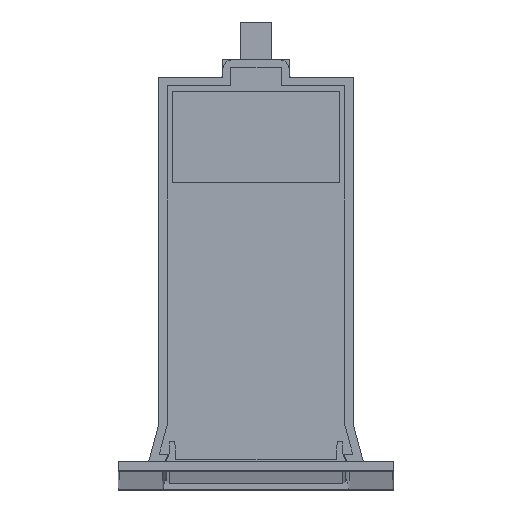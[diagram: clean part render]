
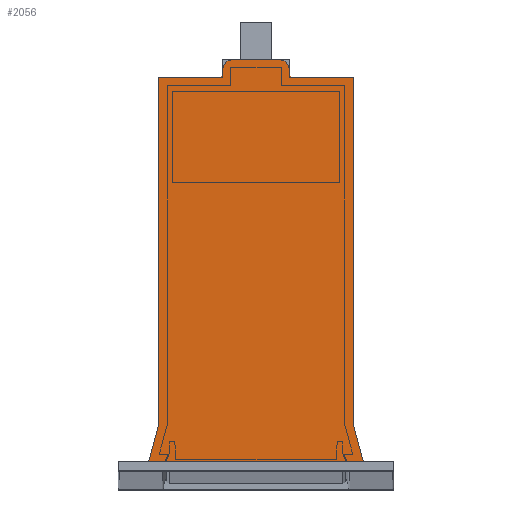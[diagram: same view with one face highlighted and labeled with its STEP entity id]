
A CAD part, top view. The second image highlights one B-rep face of the part: STEP entity #2056.
In plain terms, the highlighted planar face has unit normal (0, 0, 1).
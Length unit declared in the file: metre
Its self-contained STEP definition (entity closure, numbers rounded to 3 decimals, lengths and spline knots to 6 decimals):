
#77=CIRCLE('',#2223,0.0002);
#78=CIRCLE('',#2224,0.001);
#79=CIRCLE('',#2225,0.0023);
#80=CIRCLE('',#2226,0.0023);
#81=CIRCLE('',#2227,0.001);
#82=CIRCLE('',#2228,0.0002);
#134=FACE_OUTER_BOUND('',#248,.T.);
#248=EDGE_LOOP('',(#1527,#1528,#1529,#1530,#1531,#1532,#1533,#1534,#1535,
#1536,#1537,#1538,#1539,#1540,#1541,#1542));
#407=LINE('',#3122,#659);
#408=LINE('',#3126,#660);
#409=LINE('',#3128,#661);
#410=LINE('',#3130,#662);
#411=LINE('',#3134,#663);
#412=LINE('',#3138,#664);
#413=LINE('',#3142,#665);
#414=LINE('',#3146,#666);
#415=LINE('',#3148,#667);
#416=LINE('',#3150,#668);
#659=VECTOR('',#2529,0.046517);
#660=VECTOR('',#2532,0.008313);
#661=VECTOR('',#2533,0.075919);
#662=VECTOR('',#2534,0.013);
#663=VECTOR('',#2537,0.0007);
#664=VECTOR('',#2540,0.01);
#665=VECTOR('',#2543,0.0007);
#666=VECTOR('',#2546,0.013);
#667=VECTOR('',#2547,0.075919);
#668=VECTOR('',#2548,0.008313);
#907=VERTEX_POINT('',#3120);
#908=VERTEX_POINT('',#3121);
#909=VERTEX_POINT('',#3123);
#910=VERTEX_POINT('',#3125);
#911=VERTEX_POINT('',#3127);
#912=VERTEX_POINT('',#3129);
#913=VERTEX_POINT('',#3131);
#914=VERTEX_POINT('',#3133);
#915=VERTEX_POINT('',#3135);
#916=VERTEX_POINT('',#3137);
#917=VERTEX_POINT('',#3139);
#918=VERTEX_POINT('',#3141);
#919=VERTEX_POINT('',#3143);
#920=VERTEX_POINT('',#3145);
#921=VERTEX_POINT('',#3147);
#922=VERTEX_POINT('',#3149);
#1137=EDGE_CURVE('',#907,#908,#407,.T.);
#1138=EDGE_CURVE('',#908,#909,#77,.T.);
#1139=EDGE_CURVE('',#909,#910,#408,.T.);
#1140=EDGE_CURVE('',#910,#911,#409,.T.);
#1141=EDGE_CURVE('',#911,#912,#410,.F.);
#1142=EDGE_CURVE('',#912,#913,#78,.F.);
#1143=EDGE_CURVE('',#913,#914,#411,.T.);
#1144=EDGE_CURVE('',#914,#915,#79,.T.);
#1145=EDGE_CURVE('',#915,#916,#412,.F.);
#1146=EDGE_CURVE('',#916,#917,#80,.T.);
#1147=EDGE_CURVE('',#917,#918,#413,.F.);
#1148=EDGE_CURVE('',#918,#919,#81,.F.);
#1149=EDGE_CURVE('',#919,#920,#414,.F.);
#1150=EDGE_CURVE('',#920,#921,#415,.F.);
#1151=EDGE_CURVE('',#921,#922,#416,.T.);
#1152=EDGE_CURVE('',#922,#907,#82,.T.);
#1527=ORIENTED_EDGE('',*,*,#1137,.T.);
#1528=ORIENTED_EDGE('',*,*,#1138,.T.);
#1529=ORIENTED_EDGE('',*,*,#1139,.T.);
#1530=ORIENTED_EDGE('',*,*,#1140,.T.);
#1531=ORIENTED_EDGE('',*,*,#1141,.T.);
#1532=ORIENTED_EDGE('',*,*,#1142,.T.);
#1533=ORIENTED_EDGE('',*,*,#1143,.T.);
#1534=ORIENTED_EDGE('',*,*,#1144,.T.);
#1535=ORIENTED_EDGE('',*,*,#1145,.T.);
#1536=ORIENTED_EDGE('',*,*,#1146,.T.);
#1537=ORIENTED_EDGE('',*,*,#1147,.T.);
#1538=ORIENTED_EDGE('',*,*,#1148,.T.);
#1539=ORIENTED_EDGE('',*,*,#1149,.T.);
#1540=ORIENTED_EDGE('',*,*,#1150,.T.);
#1541=ORIENTED_EDGE('',*,*,#1151,.T.);
#1542=ORIENTED_EDGE('',*,*,#1152,.T.);
#1956=PLANE('',#2222);
#2056=ADVANCED_FACE('',(#134),#1956,.T.);
#2222=AXIS2_PLACEMENT_3D('',#3119,#2527,#2528);
#2223=AXIS2_PLACEMENT_3D('',#3124,#2530,#2531);
#2224=AXIS2_PLACEMENT_3D('',#3132,#2535,#2536);
#2225=AXIS2_PLACEMENT_3D('',#3136,#2538,#2539);
#2226=AXIS2_PLACEMENT_3D('',#3140,#2541,#2542);
#2227=AXIS2_PLACEMENT_3D('',#3144,#2544,#2545);
#2228=AXIS2_PLACEMENT_3D('',#3151,#2549,#2550);
#2527=DIRECTION('center_axis',(0.,0.,1.));
#2528=DIRECTION('ref_axis',(1.,0.,0.));
#2529=DIRECTION('',(1.,0.,0.));
#2530=DIRECTION('center_axis',(0.,0.,1.));
#2531=DIRECTION('ref_axis',(1.,0.,0.));
#2532=DIRECTION('',(-0.259,0.966,0.));
#2533=DIRECTION('',(0.,1.,0.));
#2534=DIRECTION('',(1.,0.,0.));
#2535=DIRECTION('center_axis',(0.,0.,1.));
#2536=DIRECTION('ref_axis',(1.,0.,0.));
#2537=DIRECTION('',(0.,1.,0.));
#2538=DIRECTION('center_axis',(0.,0.,1.));
#2539=DIRECTION('ref_axis',(1.,0.,0.));
#2540=DIRECTION('',(1.,0.,0.));
#2541=DIRECTION('center_axis',(0.,0.,1.));
#2542=DIRECTION('ref_axis',(1.,0.,0.));
#2543=DIRECTION('',(0.,1.,0.));
#2544=DIRECTION('center_axis',(0.,0.,1.));
#2545=DIRECTION('ref_axis',(1.,0.,0.));
#2546=DIRECTION('',(1.,0.,0.));
#2547=DIRECTION('',(0.,1.,0.));
#2548=DIRECTION('',(-0.259,-0.966,0.));
#2549=DIRECTION('center_axis',(0.,0.,1.));
#2550=DIRECTION('ref_axis',(1.,0.,0.));
#3119=CARTESIAN_POINT('Origin',(0.0225,0.0093,1.18625));
#3120=CARTESIAN_POINT('',(-0.023258,0.0008,1.18625));
#3121=CARTESIAN_POINT('',(0.023258,0.0008,1.18625));
#3122=CARTESIAN_POINT('',(-0.023258,0.0008,1.18625));
#3123=CARTESIAN_POINT('',(0.023452,0.001052,1.18625));
#3124=CARTESIAN_POINT('Origin',(0.023258,0.001,
1.18625));
#3125=CARTESIAN_POINT('',(0.0213,0.009081,1.18625));
#3126=CARTESIAN_POINT('',(0.023452,0.001052,1.18625));
#3127=CARTESIAN_POINT('',(0.0213,0.085,1.18625));
#3128=CARTESIAN_POINT('',(0.0213,0.009081,1.18625));
#3129=CARTESIAN_POINT('',(0.0083,0.085,1.18625));
#3130=CARTESIAN_POINT('',(0.0083,0.085,1.18625));
#3131=CARTESIAN_POINT('',(0.0073,0.086,1.18625));
#3132=CARTESIAN_POINT('Origin',(0.0083,0.086,1.18625));
#3133=CARTESIAN_POINT('',(0.0073,0.0867,1.18625));
#3134=CARTESIAN_POINT('',(0.0073,0.086,1.18625));
#3135=CARTESIAN_POINT('',(0.005,0.089,1.18625));
#3136=CARTESIAN_POINT('Origin',(0.005,0.0867,1.18625));
#3137=CARTESIAN_POINT('',(-0.005,0.089,1.18625));
#3138=CARTESIAN_POINT('',(-0.005,0.089,1.18625));
#3139=CARTESIAN_POINT('',(-0.0073,0.0867,1.18625));
#3140=CARTESIAN_POINT('Origin',(-0.005,0.0867,1.18625));
#3141=CARTESIAN_POINT('',(-0.0073,0.086,1.18625));
#3142=CARTESIAN_POINT('',(-0.0073,0.086,1.18625));
#3143=CARTESIAN_POINT('',(-0.0083,0.085,1.18625));
#3144=CARTESIAN_POINT('Origin',(-0.0083,0.086,1.18625));
#3145=CARTESIAN_POINT('',(-0.0213,0.085,1.18625));
#3146=CARTESIAN_POINT('',(-0.0213,0.085,1.18625));
#3147=CARTESIAN_POINT('',(-0.0213,0.009081,1.18625));
#3148=CARTESIAN_POINT('',(-0.0213,0.009081,1.18625));
#3149=CARTESIAN_POINT('',(-0.023452,0.001052,1.18625));
#3150=CARTESIAN_POINT('',(-0.0213,0.009081,1.18625));
#3151=CARTESIAN_POINT('Origin',(-0.023258,0.001,
1.18625));
